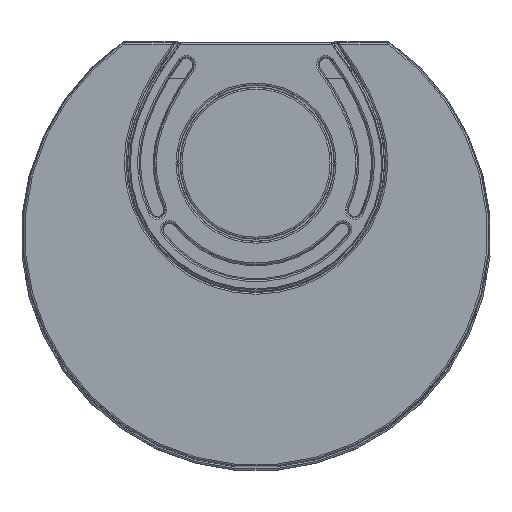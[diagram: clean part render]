
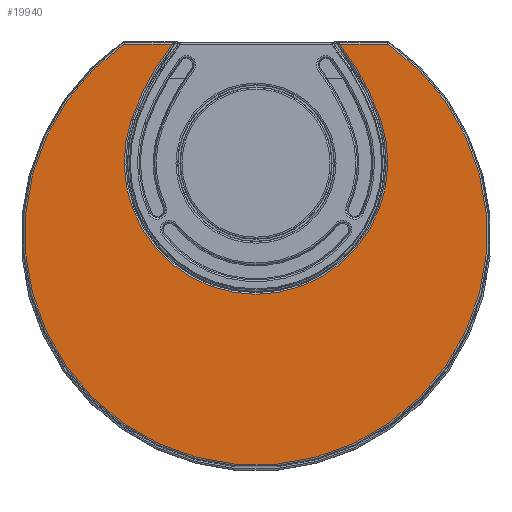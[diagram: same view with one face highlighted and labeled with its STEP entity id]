
A CAD part, top view. The second image highlights one B-rep face of the part: STEP entity #19940.
In plain terms, the highlighted planar face has unit normal (0, 0, 1).
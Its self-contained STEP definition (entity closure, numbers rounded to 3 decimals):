
#2507=CIRCLE('',#22344,152.766);
#2508=CIRCLE('',#22345,302.766);
#2509=CIRCLE('',#22346,2.022);
#2510=CIRCLE('',#22347,267.986);
#2511=CIRCLE('',#22348,2.022);
#2512=CIRCLE('',#22349,302.766);
#3401=ORIENTED_EDGE('',*,*,#9661,.T.);
#3402=ORIENTED_EDGE('',*,*,#9662,.T.);
#3403=ORIENTED_EDGE('',*,*,#9663,.T.);
#3404=ORIENTED_EDGE('',*,*,#9664,.T.);
#3405=ORIENTED_EDGE('',*,*,#9665,.T.);
#3406=ORIENTED_EDGE('',*,*,#9666,.T.);
#3407=ORIENTED_EDGE('',*,*,#9667,.T.);
#3408=ORIENTED_EDGE('',*,*,#9668,.T.);
#9661=EDGE_CURVE('',#12789,#12790,#2507,.F.);
#9662=EDGE_CURVE('',#12790,#12791,#2508,.F.);
#9663=EDGE_CURVE('',#12791,#12792,#14810,.F.);
#9664=EDGE_CURVE('',#12792,#12793,#2509,.T.);
#9665=EDGE_CURVE('',#12793,#12794,#2510,.T.);
#9666=EDGE_CURVE('',#12794,#12795,#2511,.T.);
#9667=EDGE_CURVE('',#12795,#12796,#14811,.F.);
#9668=EDGE_CURVE('',#12796,#12789,#2512,.F.);
#12789=VERTEX_POINT('',#28523);
#12790=VERTEX_POINT('',#28524);
#12791=VERTEX_POINT('',#28526);
#12792=VERTEX_POINT('',#28528);
#12793=VERTEX_POINT('',#28530);
#12794=VERTEX_POINT('',#28532);
#12795=VERTEX_POINT('',#28534);
#12796=VERTEX_POINT('',#28536);
#14810=LINE('',#28527,#15755);
#14811=LINE('',#28535,#15756);
#15755=VECTOR('',#24110,1000.);
#15756=VECTOR('',#24117,1000.);
#16693=EDGE_LOOP('',(#3401,#3402,#3403,#3404,#3405,#3406,#3407,#3408));
#18078=FACE_BOUND('',#16693,.T.);
#19460=PLANE('',#22343);
#19940=ADVANCED_FACE('',(#18078),#19460,.T.);
#22343=AXIS2_PLACEMENT_3D('',#28521,#24104,#24105);
#22344=AXIS2_PLACEMENT_3D('',#28522,#24106,#24107);
#22345=AXIS2_PLACEMENT_3D('',#28525,#24108,#24109);
#22346=AXIS2_PLACEMENT_3D('',#28529,#24111,#24112);
#22347=AXIS2_PLACEMENT_3D('',#28531,#24113,#24114);
#22348=AXIS2_PLACEMENT_3D('',#28533,#24115,#24116);
#22349=AXIS2_PLACEMENT_3D('',#28537,#24118,#24119);
#24104=DIRECTION('',(0.,0.,1.));
#24105=DIRECTION('',(1.,0.,0.));
#24106=DIRECTION('',(0.,0.,1.));
#24107=DIRECTION('',(1.,0.,0.));
#24108=DIRECTION('',(0.,0.,1.));
#24109=DIRECTION('',(1.,0.,0.));
#24110=DIRECTION('',(1.,0.,0.));
#24111=DIRECTION('',(0.,0.,1.));
#24112=DIRECTION('',(1.,0.,0.));
#24113=DIRECTION('',(0.,0.,1.));
#24114=DIRECTION('',(1.,0.,0.));
#24115=DIRECTION('',(0.,0.,1.));
#24116=DIRECTION('',(1.,0.,0.));
#24117=DIRECTION('',(1.,0.,0.));
#24118=DIRECTION('',(0.,0.,1.));
#24119=DIRECTION('',(1.,0.,0.));
#28521=CARTESIAN_POINT('',(152.409,-103.336,1258.));
#28522=CARTESIAN_POINT('',(0.,-238.5,1258.));
#28523=CARTESIAN_POINT('',(144.356,-188.513,1258.));
#28524=CARTESIAN_POINT('',(-144.356,-188.513,1258.));
#28525=CARTESIAN_POINT('',(141.743,-287.582,1258.));
#28526=CARTESIAN_POINT('',(-96.945,-101.314,1258.));
#28527=CARTESIAN_POINT('',(-152.409,-101.314,1258.));
#28528=CARTESIAN_POINT('',(-152.409,-101.314,1258.));
#28529=CARTESIAN_POINT('',(-152.409,-103.336,1258.));
#28530=CARTESIAN_POINT('',(-153.568,-101.679,1258.));
#28531=CARTESIAN_POINT('',(0.,-321.3,1258.));
#28532=CARTESIAN_POINT('',(153.568,-101.679,1258.));
#28533=CARTESIAN_POINT('',(152.409,-103.336,1258.));
#28534=CARTESIAN_POINT('',(152.41,-101.314,1258.));
#28535=CARTESIAN_POINT('',(92.866,-101.314,1258.));
#28536=CARTESIAN_POINT('',(96.945,-101.314,1258.));
#28537=CARTESIAN_POINT('',(-141.743,-287.582,1258.));
